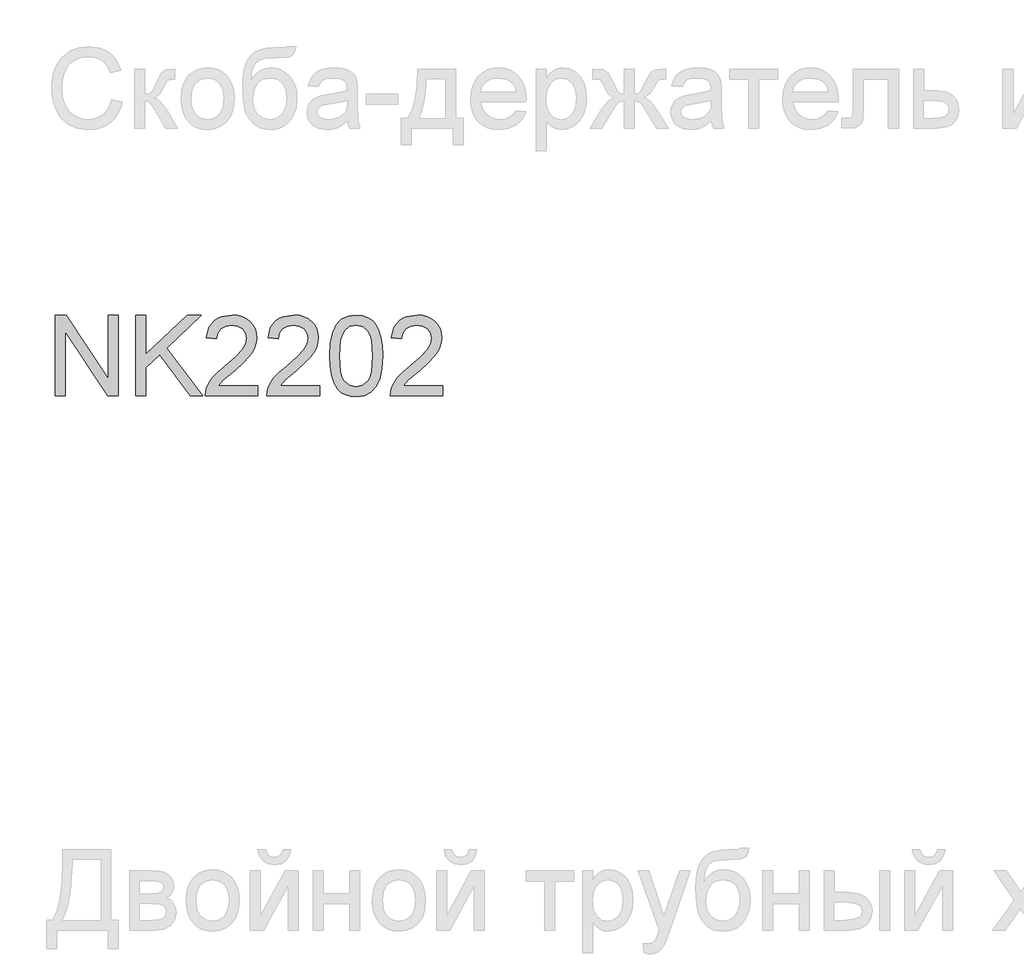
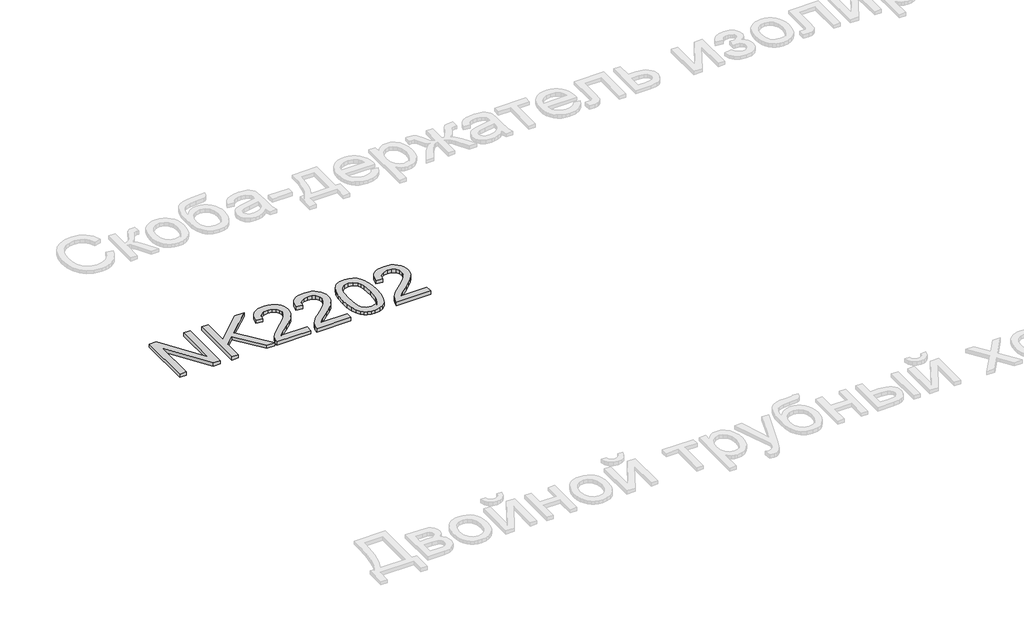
# One storey, part 17 of 124: 1 proxy.
"""IFC4 building model written with IfcOpenShell, lengths in millimetres."""

from ifc_helpers import new_model, si_unit, origin, origin_with_axes, place, context, project, spatial, polyline, outline, extrude, element, save

model = new_model("IFC4")

# Units and contexts
model_context = context("Model", 3, world=origin())
ifc_project = project(units=[si_unit("LENGTHUNIT", "METRE", prefix="MILLI")], contexts=[model_context])

# Site, building, storey
site = spatial("IfcSite", under=ifc_project)
building = spatial("IfcBuilding", under=site)
storey = spatial("IfcBuildingStorey", under=building, Name="Этаж 01", Elevation=0.0)

# Proxy
placement = place(None, origin())
element("IfcBuildingElementProxy", 1, Name="300", ObjectType="300", at=placement, inside=storey, context=model_context, shape_type="SweptSolid", body=[
    extrude(outline(polyline([(1299.8220677, -102548.8731539), (1299.8220677, -102247.5042234), (1340.1419344, -102247.5042234), (1497.5954283, -102486.2596383), (1497.5954283, -102247.5042234), (1535.2665446, -102247.5042234), (1535.2665446, -102548.8731539), (1494.9466779, -102548.8731539), (1337.493184, -102310.0441626), (1337.493184, -102548.8731539), (1299.8220677, -102548.8731539)])), origin_with_axes(), (0.0, 0.0, 1.0), 20.0),
    extrude(outline(polyline([(1601.1909981, -102548.8731539), (1601.1909981, -102247.5042234), (1638.8621144, -102247.5042234), (1638.8621144, -102395.0249035), (1793.3725524, -102247.5042234), (1846.0532541, -102247.5042234), (1716.3380626, -102371.4068794), (1850.7621437, -102548.8731539), (1804.7033179, -102548.8731539), (1689.6298298, -102396.8643135), (1638.8621144, -102445.277584), (1638.8621144, -102548.8731539), (1601.1909981, -102548.8731539)])), origin_with_axes(), (0.0, 0.0, 1.0), 20.0),
    extrude(outline(polyline([(2057.9532834, -102511.2020376), (2057.9532834, -102548.8731539), (1860.1799227, -102548.8731539), (1864.2266247, -102522.900685), (1873.5156451, -102502.6027959), (1887.1088848, -102482.9119122), (1906.7721774, -102462.3013234), (1934.2713566, -102439.2443193), (1974.922317, -102403.1367015), (1999.3128933, -102376.4836509), (2011.5081815, -102354.8521896), (2015.5732775, -102333.8093395), (2011.7381077, -102314.9461902), (2000.2325983, -102299.2652202), (1982.5466714, -102288.6978098), (1960.170249, -102285.1753397), (1936.6717866, -102288.6150364), (1918.4156426, -102298.9341264), (1906.6342217, -102315.3232692), (1902.5599286, -102336.9731247), (1864.8888123, -102332.2642351), (1874.0214828, -102295.8255235), (1882.5678414, -102281.2895862), (1893.7675489, -102269.2092612), (1907.3630879, -102259.7133072), (1923.096941, -102252.9304829), (1960.9795894, -102247.5042234), (1981.1694132, -102249.0125396), (1999.1381494, -102253.5374882), (2014.885798, -102261.0790691), (2028.4123591, -102271.6372823), (2039.2763743, -102284.4303787), (2047.0363851, -102298.676609), (2051.6923916, -102314.3759731), (2053.2443938, -102331.5284711), (2051.5705307, -102349.5454918), (2046.5489415, -102367.2498129), (2037.6370002, -102385.2576365), (2024.2920808, -102404.1851652), (2003.0193044, -102426.7823167), (1970.3237921, -102455.7990091), (1926.9872931, -102492.0353856), (1909.9911449, -102511.2020376), (2057.9532834, -102511.2020376)])), origin_with_axes(), (0.0, 0.0, 1.0), 20.0),
    extrude(outline(polyline([(2288.6888707, -102511.2020376), (2288.6888707, -102548.8731539), (2090.9155101, -102548.8731539), (2094.9622121, -102522.900685), (2104.2512324, -102502.6027959), (2117.8444722, -102482.9119122), (2137.5077648, -102462.3013234), (2165.006944, -102439.2443193), (2205.6579044, -102403.1367015), (2230.0484807, -102376.4836509), (2242.2437688, -102354.8521896), (2246.3088649, -102333.8093395), (2242.4736951, -102314.9461902), (2230.9681857, -102299.2652202), (2213.2822588, -102288.6978098), (2190.9058364, -102285.1753397), (2167.407374, -102288.6150364), (2149.15123, -102298.9341264), (2137.3698091, -102315.3232692), (2133.295516, -102336.9731247), (2095.6243997, -102332.2642351), (2104.7570702, -102295.8255235), (2113.3034288, -102281.2895862), (2124.5031363, -102269.2092612), (2138.0986753, -102259.7133072), (2153.8325283, -102252.9304829), (2191.7151768, -102247.5042234), (2211.9050005, -102249.0125396), (2229.8737368, -102253.5374882), (2245.6213854, -102261.0790691), (2259.1479465, -102271.6372823), (2270.0119617, -102284.4303787), (2277.7719725, -102298.676609), (2282.427979, -102314.3759731), (2283.9799812, -102331.5284711), (2282.3061181, -102349.5454918), (2277.2845289, -102367.2498129), (2268.3725875, -102385.2576365), (2255.0276682, -102404.1851652), (2233.7548918, -102426.7823167), (2201.0593795, -102455.7990091), (2157.7228804, -102492.0353856), (2140.7267323, -102511.2020376), (2288.6888707, -102511.2020376)])), origin_with_axes(), (0.0, 0.0, 1.0), 20.0),
    extrude(outline(polyline([(2326.359987, -102400.6167098), (2329.128299, -102352.3781832), (2337.4332351, -102313.9069236), (2351.1920217, -102284.6143197), (2370.3218855, -102263.9117604), (2394.9607821, -102251.6061077), (2425.2466673, -102247.5042234), (2448.4600212, -102249.9322446), (2469.245354, -102257.2163081), (2486.6277782, -102269.0713054), (2499.6324068, -102285.2121279), (2509.454856, -102305.50082), (2517.2907425, -102329.7994258), (2522.4226964, -102360.6555281), (2524.1333476, -102400.6167098), (2521.3926268, -102448.579325), (2513.1704642, -102486.9586141), (2499.494451, -102516.2788091), (2480.3921784, -102537.0641418), (2455.6980995, -102549.452568), (2425.2466673, -102553.5820434), (2404.4981228, -102551.7886187), (2386.1040231, -102546.4083445), (2370.0643681, -102537.4412209), (2356.3791578, -102524.8872478), (2343.2457706, -102502.1935272), (2333.8647797, -102473.9171974), (2328.2361852, -102440.0582582), (2326.359987, -102400.6167098)]), holes=[polyline([(2364.0311033, -102400.5431334), (2368.4456873, -102459.7997258), (2373.9639172, -102480.0677245), (2381.6894391, -102494.0955248), (2401.4079141, -102510.4570765), (2425.2466673, -102515.9109271), (2449.0854206, -102510.4386824), (2468.8038956, -102494.0219484), (2476.5294175, -102479.9711555), (2482.0476474, -102459.7077553), (2486.4622313, -102400.5431334), (2482.1948002, -102342.6201133), (2476.8605113, -102322.4187932), (2469.3925068, -102308.0575998), (2449.71082, -102290.8959048), (2424.8052089, -102285.1753397), (2401.2239731, -102290.2153231), (2382.2780503, -102305.3352731), (2374.295011, -102320.9702579), (2368.5928401, -102342.0498962), (2364.0311033, -102400.5431334)])]), origin_with_axes(), (0.0, 0.0, 1.0), 20.0),
    extrude(outline(polyline([(2750.1600455, -102511.2020376), (2750.1600455, -102548.8731539), (2552.3866849, -102548.8731539), (2556.4333868, -102522.900685), (2565.7224072, -102502.6027959), (2579.3156469, -102482.9119122), (2598.9789396, -102462.3013234), (2626.4781187, -102439.2443193), (2667.1290792, -102403.1367015), (2691.5196554, -102376.4836509), (2703.7149436, -102354.8521896), (2707.7800396, -102333.8093395), (2703.9448698, -102314.9461902), (2692.4393604, -102299.2652202), (2674.7534335, -102288.6978098), (2652.3770112, -102285.1753397), (2628.8785487, -102288.6150364), (2610.6224047, -102298.9341264), (2598.8409838, -102315.3232692), (2594.7666907, -102336.9731247), (2557.0955744, -102332.2642351), (2566.2282449, -102295.8255235), (2574.7746035, -102281.2895862), (2585.974311, -102269.2092612), (2599.56985, -102259.7133072), (2615.3037031, -102252.9304829), (2653.1863516, -102247.5042234), (2673.3761753, -102249.0125396), (2691.3449115, -102253.5374882), (2707.0925602, -102261.0790691), (2720.6191213, -102271.6372823), (2731.4831364, -102284.4303787), (2739.2431473, -102298.676609), (2743.8991538, -102314.3759731), (2745.4511559, -102331.5284711), (2743.7772929, -102349.5454918), (2738.7557036, -102367.2498129), (2729.8437623, -102385.2576365), (2716.4988429, -102404.1851652), (2695.2260665, -102426.7823167), (2662.5305542, -102455.7990091), (2619.1940552, -102492.0353856), (2602.197907, -102511.2020376), (2750.1600455, -102511.2020376)])), origin_with_axes(), (0.0, 0.0, 1.0), 20.0),
])

save(model, "model.ifc")
